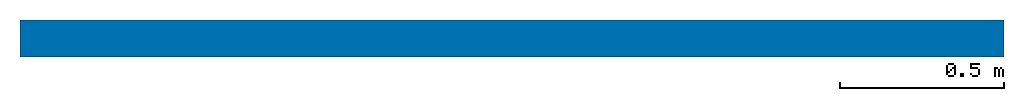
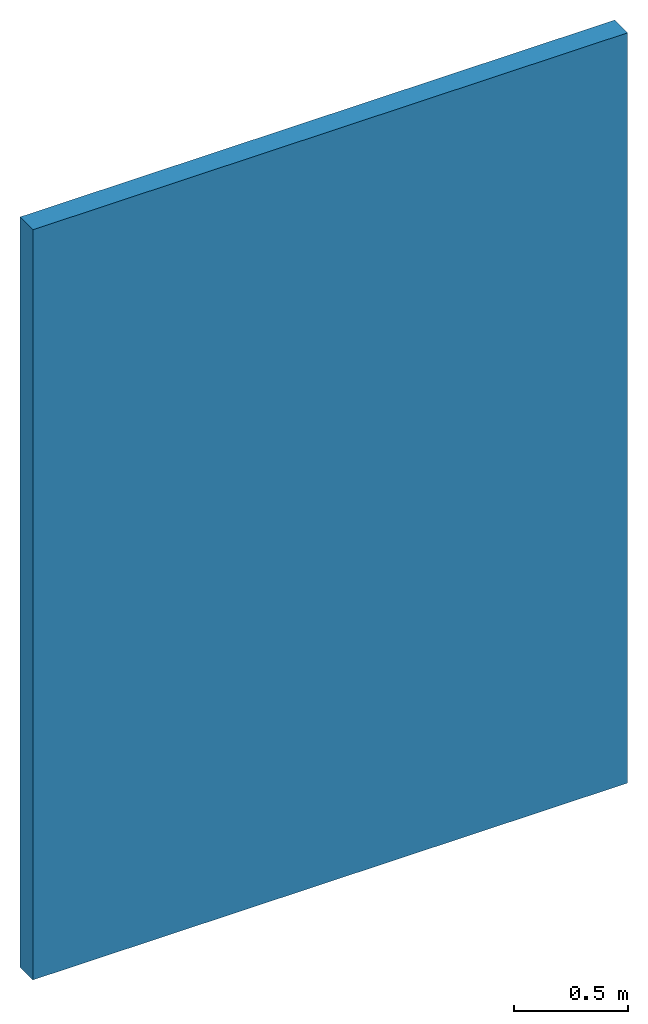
# One storey: 1 wall.
"""IFC2X3 building model written with IfcOpenShell, lengths in millimetres."""

from ifc_helpers import new_model, entity, si_unit, converted_unit, derived_unit, direction, frame, frame_2d, origin, place, context, subcontext, project, spatial, rectangle, extrude, material, layer, layer_set, layer_usage, type_object, element, save


model = new_model("IFC2X3")

# Units and contexts
model_context = context("Model", 3, precision=0.01, world=origin(), true_north=direction((6.12303176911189e-17, 1.0)))
body_context = subcontext(model_context, "Body", "Model", "MODEL_VIEW")
ifc_project = project(units=[si_unit("LENGTHUNIT", "METRE", prefix="MILLI"), si_unit("AREAUNIT", "SQUARE_METRE"), si_unit("VOLUMEUNIT", "CUBIC_METRE"), converted_unit("PLANEANGLEUNIT", "DEGREE", entity("IfcRatioMeasure", 0.0174532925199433), si_unit("PLANEANGLEUNIT", "RADIAN"), dimensions=[0, 0, 0, 0, 0, 0, 0]), si_unit("MASSUNIT", "GRAM", prefix="KILO"), si_unit("TIMEUNIT", "SECOND"), si_unit("FREQUENCYUNIT", "HERTZ"), si_unit("THERMODYNAMICTEMPERATUREUNIT", "DEGREE_CELSIUS"), derived_unit("THERMALTRANSMITTANCEUNIT", [(si_unit("MASSUNIT", "GRAM", prefix="KILO"), 1), (si_unit("THERMODYNAMICTEMPERATUREUNIT", "KELVIN"), -1), (si_unit("TIMEUNIT", "SECOND"), -3)]), derived_unit("VOLUMETRICFLOWRATEUNIT", [(si_unit("LENGTHUNIT", "METRE"), 3), (si_unit("TIMEUNIT", "SECOND"), -1)]), si_unit("ELECTRICCURRENTUNIT", "AMPERE"), si_unit("ELECTRICVOLTAGEUNIT", "VOLT"), si_unit("POWERUNIT", "WATT"), si_unit("FORCEUNIT", "NEWTON", prefix="KILO"), si_unit("ILLUMINANCEUNIT", "LUX"), si_unit("LUMINOUSFLUXUNIT", "LUMEN"), si_unit("LUMINOUSINTENSITYUNIT", "CANDELA"), derived_unit("USERDEFINED", [(si_unit("MASSUNIT", "GRAM", prefix="KILO"), -1), (si_unit("LENGTHUNIT", "METRE"), -2), (si_unit("TIMEUNIT", "SECOND"), 3), (si_unit("LUMINOUSFLUXUNIT", "LUMEN"), 1)]), derived_unit("LINEARVELOCITYUNIT", [(si_unit("LENGTHUNIT", "METRE"), 1), (si_unit("TIMEUNIT", "SECOND"), -1)]), si_unit("PRESSUREUNIT", "PASCAL"), derived_unit("USERDEFINED", [(si_unit("LENGTHUNIT", "METRE"), -2), (si_unit("MASSUNIT", "GRAM", prefix="KILO"), 1), (si_unit("TIMEUNIT", "SECOND"), -2)])], contexts=[model_context])

# Site, building, storey
site_placement = place(None, origin())
site = spatial("IfcSite", under=ifc_project, at=site_placement, Name="Default", CompositionType="ELEMENT")
building_placement = place(site_placement, origin())
building = spatial("IfcBuilding", under=site, at=building_placement, CompositionType="ELEMENT")
storey_placement = place(building_placement, origin())
storey = spatial("IfcBuildingStorey", under=building, at=storey_placement, Name="Уровень 1", CompositionType="ELEMENT", Elevation=0.0)

# Wall
ifc_material_1 = material(Name="КНАУФ-Файерборд")
ifc_layer_1 = layer(ifc_material_1, 12.5)
ifc_material_2 = material(Name="Luft")
ifc_layer_2 = layer(ifc_material_2, 25.0)
ifc_material_3 = material(Name="КНАУФ-профиль+мин.вата 75@600mm")
ifc_layer_3 = layer(ifc_material_3, 75.0)
ifc_layer_set = layer_set([ifc_layer_1, ifc_layer_2, ifc_layer_3], Name="Базовая стена:Облицовка КНАУФ С635 Применение внутри здания ПC100/50 ПН100х40 Файерборд 12.5")
ifc_layer_usage = layer_usage(ifc_layer_set, "AXIS2", "NEGATIVE", 56.25)
wall_type = type_object("IfcWallType", Name="Базовая стена:Облицовка КНАУФ С635 Применение внутри здания ПC100/50 ПН100х40 Файерборд 12.5", PredefinedType="STANDARD", material=ifc_layer_set)
wall_placement = place(storey_placement, frame((417.606076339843, -900.563629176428, 0.0)))
element("IfcWallStandardCase", 1, at=wall_placement, inside=storey, type_object=wall_type, material=ifc_layer_usage, Name="Базовая стена:Облицовка КНАУФ С635 Применение внутри здания ПC100/50 ПН100х40 Файерборд 12.5", ObjectType="Базовая стена:Облицовка КНАУФ С635 Применение внутри здания ПC100/50 ПН100х40 Файерборд 12.5", context=body_context, shape_type="SweptSolid", body=[
    extrude(rectangle(XDim=3000.0, YDim=112.5, at=frame_2d((1500.0, 0.0), x_axis=(-1.0, 0.0))), origin(), (0.0, 0.0, 1.0), 4000.0),
])

save(model, "model.ifc")
